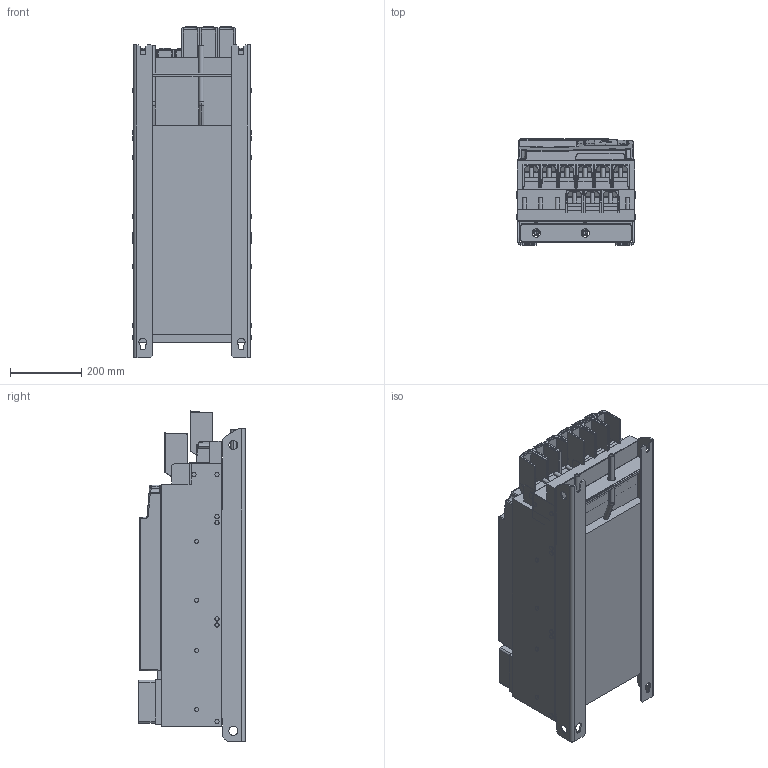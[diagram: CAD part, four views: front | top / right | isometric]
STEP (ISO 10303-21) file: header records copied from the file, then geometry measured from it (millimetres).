
FILE_DESCRIPTION (( 'STEP AP214' ), '1' );
FILE_NAME ('F6-8TW0-A010.STEP', '2021-03-01T14:43:41', ( '' ), ( '' ), 'SwSTEP 2.0', 'SolidWorks 2019', '' );
FILE_SCHEMA (( 'AUTOMOTIVE_DESIGN' ));
Length unit declared in the file: millimetre
Products named in the file (13): 10063225_000; 10059765_000; 10040552_000_Kundenmodell; 10044643_000_Kundenmodell; 10063887_000_F6-8 Leistungsteil TW0 (Kundenmodell); 10063199_000; 10047771_000_Kundenmodell; 10059761_000; F6-8TW0-A010; 10063898_000; 10063180_000; 10038044_000_Kundemodell; 10059764_000_Blindabdeckung (Kundenmodell)
Assembly tree (12 placements, depth 4):
  F6-8TW0-A010
    10063887_000_F6-8 Leistungsteil TW0 (Kundenmodell)
      10038044_000_Kundemodell
        10063180_000
      10063898_000
    10040552_000_Kundenmodell
      10047771_000_Kundenmodell
        10063225_000
      10063199_000
    10044643_000_Kundenmodell
      10059764_000_Blindabdeckung (Kundenmodell)
        10059765_000
      10059761_000
Bounding box: 335.5 x 296.9 x 926.37 mm (x, y, z)
Volume: 61970877.3 mm3; surface area: 3010557.9 mm2
Topology: 6 solids, 31 shells, 2852 faces, 7242 edges, 4479 vertices
Faces by surface type: plane 1501, cylinder 809, bspline 219, sphere 154, cone 98, torus 71
Entity records: 91373 total; most frequent: CARTESIAN_POINT 24216, ORIENTED_EDGE 14262, DIRECTION 13332, EDGE_CURVE 7131, VECTOR 4608, LINE 4608, VERTEX_POINT 4476, AXIS2_PLACEMENT_3D 4362
